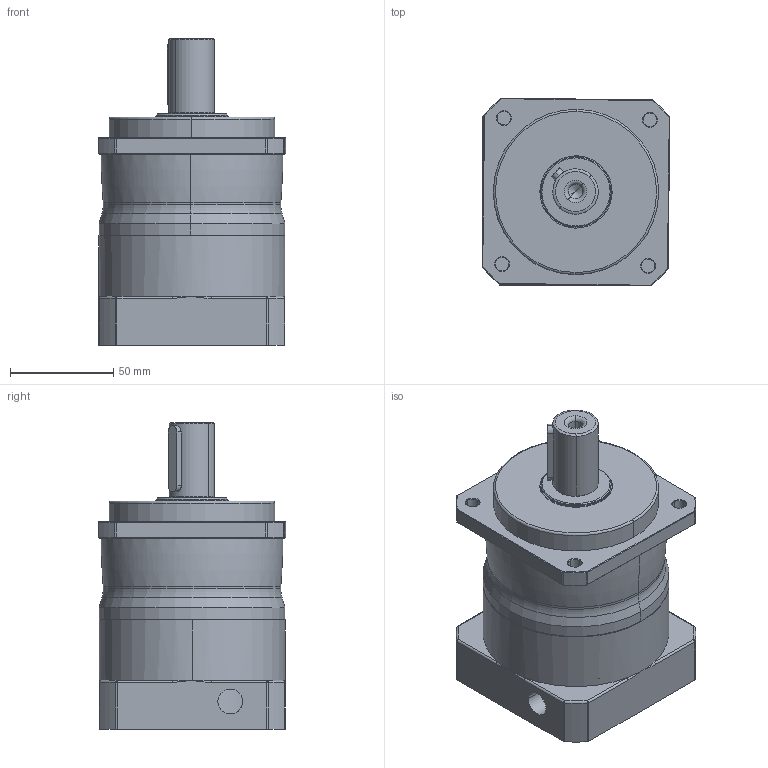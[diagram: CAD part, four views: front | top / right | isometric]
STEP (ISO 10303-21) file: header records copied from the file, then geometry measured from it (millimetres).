
FILE_DESCRIPTION (( 'STEP AP203' ), '1' );
FILE_NAME ('AP90-L1-S2-P2-14-73.025-98.4-M5-C22.STEP', '2023-02-02T07:37:43', ( '' ), ( '' ), 'SwSTEP 2.0', 'SolidWorks 2014', '' );
FILE_SCHEMA (( 'CONFIG_CONTROL_DESIGN' ));
Length unit declared in the file: millimetre
Products named in the file (5): AP90-1怀堤傷漪怀堤粣; AP90-14-73.02-98.4-M5; 90怀堤粣芛; AP90-L1-S2-P2-14-73.025-98.4-M5-C22; AP90-L1怀堤
Assembly tree (4 placements, depth 3):
  AP90-L1-S2-P2-14-73.025-98.4-M5-C22
    AP90-14-73.02-98.4-M5
    AP90-L1怀堤
      90怀堤粣芛
      AP90-1怀堤傷漪怀堤粣
Bounding box: 90.87 x 90.87 x 148.5 mm (x, y, z)
Volume: 412293.1 mm3; surface area: 112322 mm2
Topology: 3 solids, 3 shells, 1113 faces, 2889 edges, 1789 vertices
Faces by surface type: cylinder 361, bspline 332, cone 176, plane 128, torus 108, sphere 8
Entity records: 67870 total; most frequent: CARTESIAN_POINT 44146, ORIENTED_EDGE 5702, DIRECTION 4363, EDGE_CURVE 2851, AXIS2_PLACEMENT_3D 1866, VERTEX_POINT 1789, EDGE_LOOP 1182, FACE_OUTER_BOUND 1113
